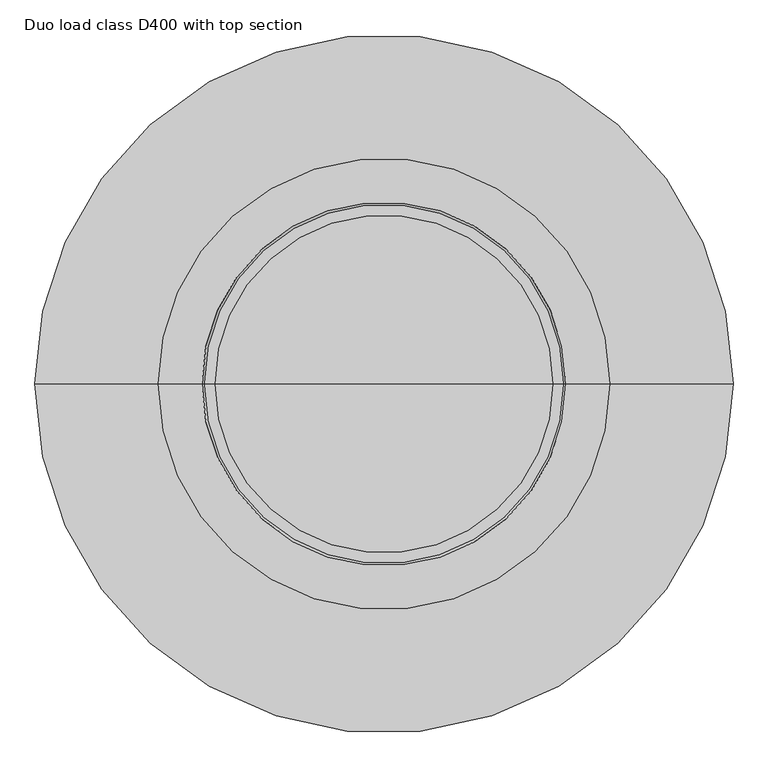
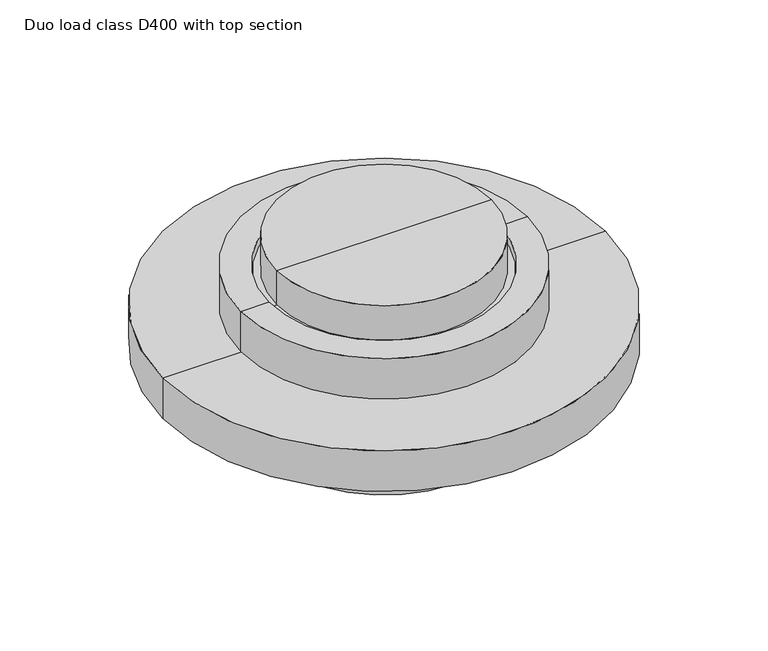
"""IFC4 building model written with IfcOpenShell, lengths in millimetres: unitary equipment geometry, ME_PE_UN_Powerlift-P_ACO : Duo load class D400 with top section."""

from ifc_helpers import new_model, si_unit, frame, origin, origin_with_axes, place, context, project, spatial, polyline, circle_curve, source, transform, mapped, element, save
from ifc_brep_helpers import plane_surface, cylinder_surface, revolved_surface, advanced_brep


def duo_load_class_d400_with_top_section_1eb122ed(model_context):
    return source(origin(), model_context, "Body", "AdvancedBrep", [
        advanced_brep(
        [(0.0, 0.0, -257.742), (775.0, 0.0, -257.742), (-775.0, 0.0, -257.742), (-775.0, 0.0, -407.742), (775.0, 0.0, -407.742), (0.0, 0.0, -407.742)],
        [
            (0, 1),
            (1, 2, circle_curve(frame((0.0, 0.0, -257.742), z_axis=(0.0, 0.0, 1.0), x_axis=(1.0, 0.0, 0.0)), 775.0)),
            (2, 0),
            (2, 1, circle_curve(frame((0.0, 0.0, -257.742), z_axis=(0.0, 0.0, 1.0), x_axis=(1.0, 0.0, 0.0)), 775.0)),
            (3, 4, circle_curve(frame((0.0, 0.0, -407.742), z_axis=(0.0, 0.0, -1.0), x_axis=(1.0, 0.0, 0.0)), 775.0)),
            (4, 5),
            (5, 3),
            (4, 3, circle_curve(frame((0.0, 0.0, -407.742), z_axis=(0.0, 0.0, -1.0), x_axis=(1.0, 0.0, 0.0)), 775.0)),
            (1, 4),
            (3, 2),
        ],
        [
            plane_surface(frame((0.0, 0.0, -257.742), z_axis=(0.0, 0.0, 1.0), x_axis=(1.0, 0.0, 0.0))),
            plane_surface(frame((0.0, 0.0, -407.742), z_axis=(0.0, 0.0, -1.0), x_axis=(1.0, 0.0, 0.0))),
            cylinder_surface(frame((0.0, 0.0, 380.0), z_axis=(0.0, 0.0, 1.0), x_axis=(1.0, 0.0, 0.0)), 775.0),
        ],
        [
            (0, [[1, 2, 3]]),
            (0, [[-3, 4, -1]]),
            (1, [[5, 6, 7]]),
            (1, [[8, -7, -6]]),
            (2, [[-2, 9, -5, 10]]),
            (2, [[-4, -10, -8, -9]]),
        ],
    ),
        advanced_brep(
        [(0.0, 0.0, -127.872), (398.6285742, 0.0, -127.872), (-398.6285742, 0.0, -127.872), (-501.0260742, 0.0, -257.742), (501.0260742, 0.0, -257.742), (0.0, 0.0, -257.742), (-501.0260742, 0.0, -107.892), (501.0260742, 0.0, -107.892), (-403.982199, 0.0, -107.892), (403.982199, 0.0, -107.892)],
        [
            (0, 1),
            (1, 2, circle_curve(frame((0.0, 0.0, -127.872), z_axis=(0.0, 0.0, 1.0), x_axis=(1.0, 0.0, 0.0)), 398.6285742)),
            (2, 0),
            (2, 1, circle_curve(frame((0.0, 0.0, -127.872), z_axis=(0.0, 0.0, 1.0), x_axis=(1.0, 0.0, 0.0)), 398.6285742)),
            (3, 4, circle_curve(frame((0.0, 0.0, -257.742), z_axis=(0.0, 0.0, -1.0), x_axis=(1.0, 0.0, 0.0)), 501.0260742)),
            (4, 5),
            (5, 3),
            (4, 3, circle_curve(frame((0.0, 0.0, -257.742), z_axis=(0.0, 0.0, -1.0), x_axis=(1.0, 0.0, 0.0)), 501.0260742)),
            (6, 7, circle_curve(frame((0.0, 0.0, -107.892), z_axis=(0.0, 0.0, -1.0), x_axis=(1.0, 0.0, 0.0)), 501.0260742)),
            (7, 4),
            (3, 6),
            (7, 6, circle_curve(frame((0.0, 0.0, -107.892), z_axis=(0.0, 0.0, -1.0), x_axis=(1.0, 0.0, 0.0)), 501.0260742)),
            (8, 9, circle_curve(frame((0.0, 0.0, -107.892), z_axis=(0.0, 0.0, -1.0), x_axis=(1.0, 0.0, 0.0)), 403.982199)),
            (9, 7),
            (6, 8),
            (9, 8, circle_curve(frame((0.0, 0.0, -107.892), z_axis=(0.0, 0.0, -1.0), x_axis=(1.0, 0.0, 0.0)), 403.982199)),
            (1, 9),
            (8, 2),
        ],
        [
            plane_surface(frame((0.0, 0.0, -127.872), z_axis=(0.0, 0.0, 1.0), x_axis=(1.0, 0.0, 0.0))),
            plane_surface(frame((0.0, 0.0, -257.742), z_axis=(0.0, 0.0, -1.0), x_axis=(1.0, 0.0, 0.0))),
            cylinder_surface(frame((0.0, 0.0, 33.5611492), z_axis=(0.0, 0.0, 1.0), x_axis=(1.0, 0.0, 0.0)), 501.0260742),
            plane_surface(frame((0.0, 0.0, -107.892), z_axis=(0.0, 0.0, 1.0), x_axis=(1.0, 0.0, 0.0))),
            revolved_surface(polyline([(403.982199, 0.0, -107.892), (398.6285742, 0.0, -127.872)]), (0.0, 0.0, 33.5611492), (0.0, 0.0, 1.0)),
        ],
        [
            (0, [[1, 2, 3]]),
            (0, [[-3, 4, -1]]),
            (1, [[5, 6, 7]]),
            (1, [[8, -7, -6]]),
            (2, [[9, 10, -5, 11]]),
            (2, [[12, -11, -8, -10]]),
            (3, [[13, 14, -9, 15]]),
            (3, [[16, -15, -12, -14]]),
            (4, [[-2, 17, -13, 18]]),
            (4, [[-4, -18, -16, -17]]),
        ],
    ),
        advanced_brep(
        [(0.0, 0.0, 0.0), (374.7842156, 0.0, 0.0), (-374.7842156, 0.0, 0.0), (-374.7842156, 0.0, -127.872), (374.7842156, 0.0, -127.872), (0.0, 0.0, -127.872)],
        [
            (0, 1),
            (1, 2, circle_curve(origin_with_axes(), 374.7842156)),
            (2, 0),
            (2, 1, circle_curve(origin_with_axes(), 374.7842156)),
            (3, 4, circle_curve(frame((0.0, 0.0, -127.872), z_axis=(0.0, 0.0, -1.0), x_axis=(1.0, 0.0, 0.0)), 374.7842156)),
            (4, 5),
            (5, 3),
            (4, 3, circle_curve(frame((0.0, 0.0, -127.872), z_axis=(0.0, 0.0, -1.0), x_axis=(1.0, 0.0, 0.0)), 374.7842156)),
            (1, 4),
            (3, 2),
        ],
        [
            plane_surface(origin_with_axes()),
            plane_surface(frame((0.0, 0.0, -127.872), z_axis=(0.0, 0.0, -1.0), x_axis=(1.0, 0.0, 0.0))),
            cylinder_surface(frame((0.0, 0.0, 60.0), z_axis=(0.0, 0.0, 1.0), x_axis=(1.0, 0.0, 0.0)), 374.7842156),
        ],
        [
            (0, [[1, 2, 3]]),
            (0, [[-3, 4, -1]]),
            (1, [[5, 6, 7]]),
            (1, [[8, -7, -6]]),
            (2, [[-2, 9, -5, 10]]),
            (2, [[-4, -10, -8, -9]]),
        ],
    ),
        advanced_brep(
        [(-411.381351, 0.0, -670.0), (411.381351, 0.0, -670.0), (411.381351, 0.0, -257.742), (-411.381351, 0.0, -257.742), (-419.25, 0.0, -670.0), (419.25, 0.0, -670.0), (-419.25, 0.0, -257.742), (419.25, 0.0, -257.742)],
        [
            (0, 1, circle_curve(frame((0.0, 0.0, -670.0), z_axis=(0.0, 0.0, -1.0), x_axis=(1.0, 0.0, 0.0)), 411.381351)),
            (1, 2),
            (2, 3, circle_curve(frame((0.0, 0.0, -257.742), z_axis=(0.0, 0.0, 1.0), x_axis=(1.0, 0.0, 0.0)), 411.381351)),
            (3, 0),
            (1, 0, circle_curve(frame((0.0, 0.0, -670.0), z_axis=(0.0, 0.0, -1.0), x_axis=(1.0, 0.0, 0.0)), 411.381351)),
            (3, 2, circle_curve(frame((0.0, 0.0, -257.742), z_axis=(0.0, 0.0, 1.0), x_axis=(1.0, 0.0, 0.0)), 411.381351)),
            (4, 5, circle_curve(frame((0.0, 0.0, -670.0), z_axis=(0.0, 0.0, -1.0), x_axis=(1.0, 0.0, 0.0)), 419.25)),
            (5, 1),
            (0, 4),
            (5, 4, circle_curve(frame((0.0, 0.0, -670.0), z_axis=(0.0, 0.0, -1.0), x_axis=(1.0, 0.0, 0.0)), 419.25)),
            (6, 7, circle_curve(frame((0.0, 0.0, -257.742), z_axis=(0.0, 0.0, -1.0), x_axis=(1.0, 0.0, 0.0)), 419.25)),
            (7, 5),
            (4, 6),
            (7, 6, circle_curve(frame((0.0, 0.0, -257.742), z_axis=(0.0, 0.0, -1.0), x_axis=(1.0, 0.0, 0.0)), 419.25)),
            (2, 7),
            (6, 3),
        ],
        [
            revolved_surface(polyline([(411.381351, 0.0, -257.742), (411.381351, 0.0, -670.0)]), (0.0, 0.0, 258.9422649), (0.0, 0.0, 1.0)),
            plane_surface(frame((0.0, 0.0, -670.0), z_axis=(0.0, 0.0, -1.0), x_axis=(1.0, 0.0, 0.0))),
            cylinder_surface(frame((0.0, 0.0, 258.9422649), z_axis=(0.0, 0.0, 1.0), x_axis=(1.0, 0.0, 0.0)), 419.25),
            plane_surface(frame((0.0, 0.0, -257.742), z_axis=(0.0, 0.0, 1.0), x_axis=(1.0, 0.0, 0.0))),
        ],
        [
            (0, [[1, 2, 3, 4]]),
            (0, [[5, -4, 6, -2]]),
            (1, [[7, 8, -1, 9]]),
            (1, [[10, -9, -5, -8]]),
            (2, [[11, 12, -7, 13]]),
            (2, [[14, -13, -10, -12]]),
            (3, [[-3, 15, -11, 16]]),
            (3, [[-6, -16, -14, -15]]),
        ],
    ),
    ])


if __name__ == "__main__":
    model = new_model("IFC4")
    model_context = context("Model", 3, world=origin())
    ifc_project = project(units=[si_unit("LENGTHUNIT", "METRE", prefix="MILLI")], contexts=[model_context])
    site = spatial("IfcSite", under=ifc_project)
    building = spatial("IfcBuilding", under=site)
    placement = place(None, origin())
    duo_load_class_d400_with_top_section_shape = duo_load_class_d400_with_top_section_1eb122ed(model_context)
    element("IfcUnitaryEquipment", 1, ObjectType="ME_PE_UN_Powerlift-P_ACO : Duo load class D400 with top section", at=placement, inside=building, context=model_context, shape_type="MappedRepresentation", body=[
        mapped(duo_load_class_d400_with_top_section_shape, transform((0.0, 0.0, 0.0), x_axis=(1.0, 0.0, 0.0), y_axis=(0.0, 1.0, 0.0), z_axis=(0.0, 0.0, 1.0))),
    ])
    save(model, "model.ifc")
